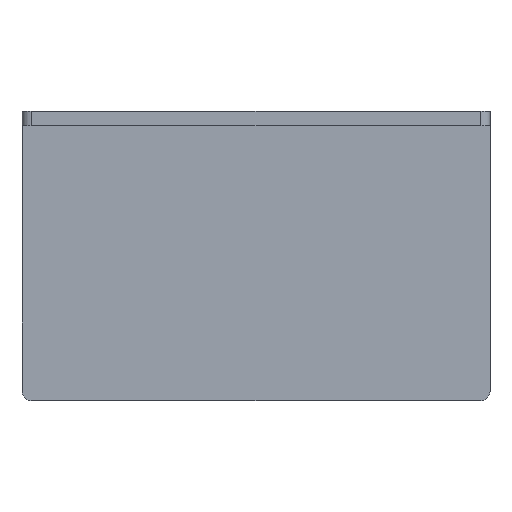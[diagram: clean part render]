
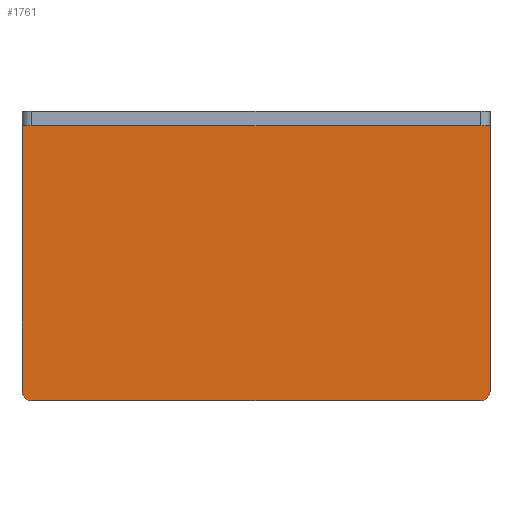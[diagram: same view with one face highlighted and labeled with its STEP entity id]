
A CAD part, front view. The second image highlights one B-rep face of the part: STEP entity #1761.
In plain terms, the highlighted planar face has unit normal (0, -1, 0).
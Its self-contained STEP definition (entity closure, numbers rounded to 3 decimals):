
#171=CIRCLE('',#1885,2.);
#172=CIRCLE('',#1886,2.);
#213=FACE_OUTER_BOUND('',#309,.T.);
#309=EDGE_LOOP('',(#1199,#1200,#1201,#1202,#1203,#1204));
#425=LINE('',#2284,#579);
#429=LINE('',#2293,#583);
#435=LINE('',#2315,#589);
#436=LINE('',#2317,#590);
#579=VECTOR('',#1964,10.);
#583=VECTOR('',#1970,10.);
#589=VECTOR('',#1992,10.);
#590=VECTOR('',#1995,10.);
#733=VERTEX_POINT('',#2281);
#734=VERTEX_POINT('',#2283);
#737=VERTEX_POINT('',#2290);
#738=VERTEX_POINT('',#2292);
#745=VERTEX_POINT('',#2312);
#746=VERTEX_POINT('',#2314);
#913=EDGE_CURVE('',#733,#734,#425,.T.);
#917=EDGE_CURVE('',#737,#738,#429,.T.);
#927=EDGE_CURVE('',#745,#733,#171,.T.);
#928=EDGE_CURVE('',#746,#745,#435,.T.);
#929=EDGE_CURVE('',#738,#746,#172,.T.);
#930=EDGE_CURVE('',#737,#734,#436,.T.);
#1199=ORIENTED_EDGE('',*,*,#927,.F.);
#1200=ORIENTED_EDGE('',*,*,#928,.F.);
#1201=ORIENTED_EDGE('',*,*,#929,.F.);
#1202=ORIENTED_EDGE('',*,*,#917,.F.);
#1203=ORIENTED_EDGE('',*,*,#930,.T.);
#1204=ORIENTED_EDGE('',*,*,#913,.F.);
#1721=PLANE('',#1884);
#1761=ADVANCED_FACE('',(#213),#1721,.F.);
#1884=AXIS2_PLACEMENT_3D('',#2311,#1988,#1989);
#1885=AXIS2_PLACEMENT_3D('',#2313,#1990,#1991);
#1886=AXIS2_PLACEMENT_3D('',#2316,#1993,#1994);
#1964=DIRECTION('',(0.,0.,1.));
#1970=DIRECTION('',(0.,0.,-1.));
#1988=DIRECTION('center_axis',(0.,1.,0.));
#1989=DIRECTION('ref_axis',(0.,0.,1.));
#1990=DIRECTION('center_axis',(0.,1.,0.));
#1991=DIRECTION('ref_axis',(-0.707,0.,-0.707));
#1992=DIRECTION('',(-1.,0.,0.));
#1993=DIRECTION('center_axis',(0.,1.,0.));
#1994=DIRECTION('ref_axis',(0.707,0.,-0.707));
#1995=DIRECTION('',(-1.,0.,0.));
#2281=CARTESIAN_POINT('',(-48.5,19.65,-55.));
#2283=CARTESIAN_POINT('',(-48.5,19.65,0.));
#2284=CARTESIAN_POINT('',(-48.5,19.65,-57.));
#2290=CARTESIAN_POINT('',(48.5,19.65,0.));
#2292=CARTESIAN_POINT('',(48.5,19.65,-55.));
#2293=CARTESIAN_POINT('',(48.5,19.65,3.));
#2311=CARTESIAN_POINT('Origin',(0.,19.65,-27.));
#2312=CARTESIAN_POINT('',(-46.5,19.65,-57.));
#2313=CARTESIAN_POINT('Origin',(-46.5,19.65,-55.));
#2314=CARTESIAN_POINT('',(46.5,19.65,-57.));
#2315=CARTESIAN_POINT('',(48.5,19.65,-57.));
#2316=CARTESIAN_POINT('Origin',(46.5,19.65,-55.));
#2317=CARTESIAN_POINT('',(48.5,19.65,0.));
